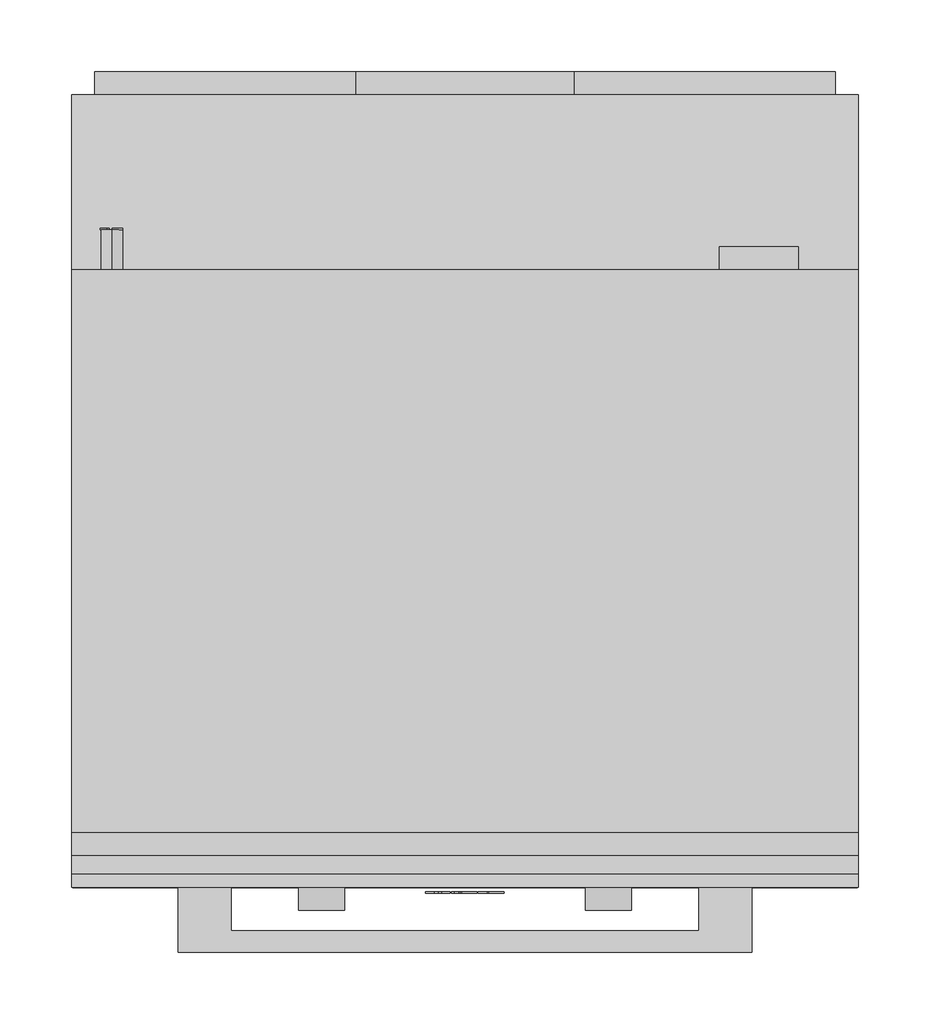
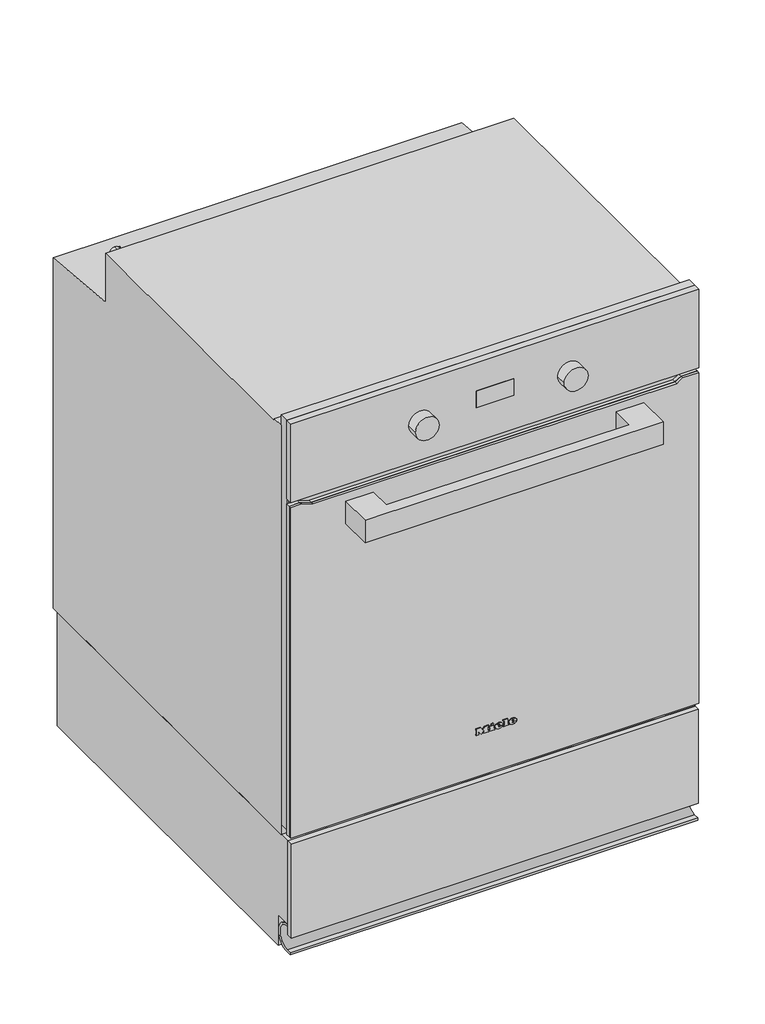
# Not in any storey: 1 proxy.
"""IFC4 building model written with IfcOpenShell, lengths in millimetres."""

from ifc_helpers import new_model, si_unit, origin, place, context, project, spatial, transform, mapped, element, save
from components import specialty_equipment_84b892e0

model = new_model("IFC4")

# Units and contexts
model_context = context("Model", 3, world=origin())
ifc_project = project(units=[si_unit("LENGTHUNIT", "METRE", prefix="MILLI")], contexts=[model_context])

# Site, building
site = spatial("IfcSite", under=ifc_project)
building = spatial("IfcBuilding", under=site)

# Proxy
placement = place(None, origin())
specialty_equipment_shape = specialty_equipment_84b892e0(model_context)
element("IfcBuildingElementProxy", 1, Name="12446320_9CH_H2456-55BP_OBSW : 22245624_9CH_12446320_H2456-55BP_OBSW", ObjectType="12446320_9CH_H2456-55BP_OBSW : 22245624_9CH_12446320_H2456-55BP_OBSW", at=placement, inside=building, context=model_context, shape_type="MappedRepresentation", body=[
    mapped(specialty_equipment_shape, transform((0.0, 0.0, 0.0), x_axis=(1.0, 0.0, 0.0), y_axis=(0.0, 1.0, 0.0), z_axis=(0.0, 0.0, 1.0))),
])

save(model, "model.ifc")
